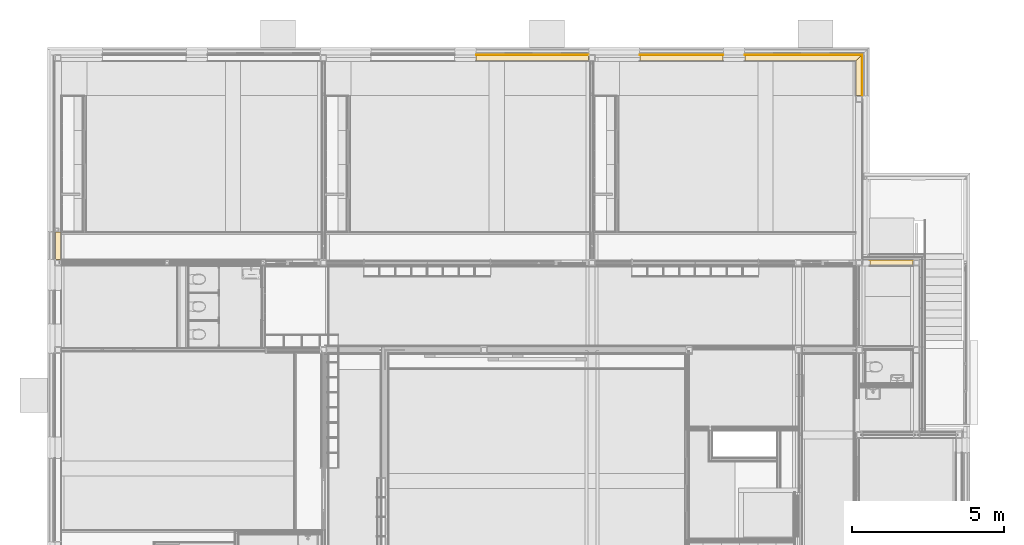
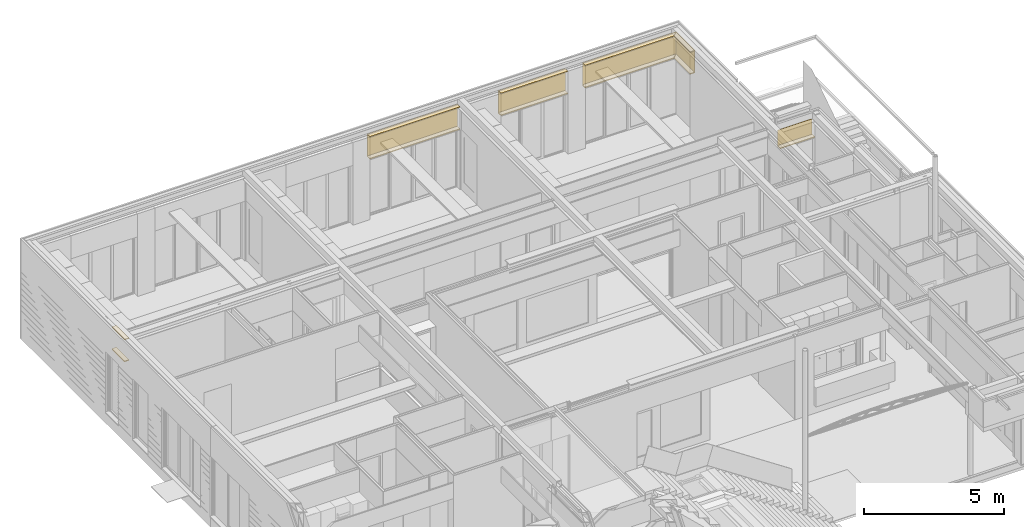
# One storey, part 120 of 165: 16 coverings, 6 elements without a shape of their own.
"""IFC2X3 building model written with IfcOpenShell, lengths in millimetres."""

from ifc_helpers import new_model, entity, si_unit, converted_unit, derived_unit, money_unit, direction, frame, origin_with_axes, place, context, subcontext, project, spatial, faceted_brep, material, type_object, element, aggregate, save


model = new_model("IFC2X3")

# Units and contexts
model_context = context("Model", 3, precision=0.01, world=origin_with_axes(), true_north=direction((0.0, 1.0)))
body_context = subcontext(model_context, "Body", "Model", "MODEL_VIEW")
ifc_project = project(units=[si_unit("LENGTHUNIT", "METRE", prefix="MILLI"), si_unit("AREAUNIT", "SQUARE_METRE"), si_unit("VOLUMEUNIT", "CUBIC_METRE"), converted_unit("PLANEANGLEUNIT", "DEGREE", entity("IfcPlaneAngleMeasure", 0.0174532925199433), si_unit("PLANEANGLEUNIT", "RADIAN"), dimensions=[0, 0, 0, 0, 0, 0, 0]), money_unit("EUR"), converted_unit("TIMEUNIT", "Year", entity("IfcTimeMeasure", 31556926.0), si_unit("TIMEUNIT", "SECOND"), dimensions=[0, 0, 1, 0, 0, 0, 0]), si_unit("MASSUNIT", "GRAM", prefix="KILO"), si_unit("THERMODYNAMICTEMPERATUREUNIT", "DEGREE_CELSIUS"), si_unit("LUMINOUSINTENSITYUNIT", "LUMEN"), si_unit("ENERGYUNIT", "JOULE", prefix="MEGA"), derived_unit("THERMALCONDUCTANCEUNIT", [(si_unit("POWERUNIT", "WATT"), 1), (si_unit("LENGTHUNIT", "METRE"), -1), (si_unit("THERMODYNAMICTEMPERATUREUNIT", "KELVIN"), -1)]), derived_unit("SPECIFICHEATCAPACITYUNIT", [(si_unit("ENERGYUNIT", "JOULE"), 1), (si_unit("MASSUNIT", "GRAM", prefix="KILO"), -1), (si_unit("THERMODYNAMICTEMPERATUREUNIT", "KELVIN"), -1)]), derived_unit("MASSDENSITYUNIT", [(si_unit("MASSUNIT", "GRAM", prefix="KILO"), 1), (si_unit("VOLUMEUNIT", "CUBIC_METRE"), -1)])], contexts=[model_context])

# Site, building, storey
site_placement = place(None, origin_with_axes())
site = spatial("IfcSite", under=ifc_project, at=site_placement, Name="Site", CompositionType="ELEMENT")
building_placement = place(site_placement, origin_with_axes())
building = spatial("IfcBuilding", under=site, at=building_placement, Name="Naam gebouw", CompositionType="ELEMENT")
storey_placement = place(building_placement, origin_with_axes())
storey = spatial("IfcBuildingStorey", under=building, at=storey_placement, Name="Begane grond", CompositionType="ELEMENT", Elevation=0.0)

# Beam, coverings
beam_type = type_object("IfcBeamType", Name="31 HSB boven kozijnen 214 x 1000", PredefinedType="BEAM")
beam_1_placement = place(storey_placement, frame((13884.99942456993, 28961.0, 2600.000000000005), z_axis=(0.0, 0.0, 1.0), x_axis=(0.0, -1.0, 0.0)))
beam_1 = element("IfcBeam", 1, at=beam_1_placement, inside=storey, type_object=beam_type, Name="28_Balk-x", ObjectType="BEAM")
ifc_material_1 = material(Name="Hout - Vloer")
covering_1_placement = place(beam_1_placement, origin_with_axes())
covering_1 = element("IfcCovering", 2, at=covering_1_placement, material=ifc_material_1, Name="Hout - Vloer", PredefinedType="NOTDEFINED", context=body_context, shape_type="Brep", body=[
    faceted_brep([(-196.000001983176, 3700.000000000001, 999.9999999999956), (-196.000001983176, 3700.000000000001, 961.9999910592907), (-196.000001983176, 0.0, 961.9999910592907), (-196.000001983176, 0.0, 999.9999999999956), (-11.99999006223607, 3700.000000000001, 999.9999999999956), (-11.99999006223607, 3700.000000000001, 962.0000059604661), (-11.99999006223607, 0.0, 962.0000059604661), (-11.99999006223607, 0.0, 999.9999999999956)], [[[0, 1, 2, 3]], [[0, 4, 5, 1]], [[1, 5, 6, 2]], [[3, 2, 6, 7]], [[4, 0, 3, 7]], [[5, 4, 7, 6]]]),
])
ifc_material_2 = material(Name="Hout - Multiplex")
covering_2_placement = place(beam_1_placement, origin_with_axes())
covering_2 = element("IfcCovering", 3, at=covering_2_placement, material=ifc_material_2, Name="Hout - Multiplex", PredefinedType="NOTDEFINED", context=body_context, shape_type="Brep", body=[
    faceted_brep([(-214.0000025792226, 3700.000000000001, 999.9999999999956), (-214.0000025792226, 3700.000000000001, 11.99999999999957), (-214.0000025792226, 0.0, 11.99999999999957), (-214.0000025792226, 0.0, 999.9999999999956), (-196.000001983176, 3700.000000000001, 999.9999999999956), (-196.000001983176, 3700.000000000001, 11.99999999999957), (-196.000001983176, 0.0, 11.99999999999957), (-196.000001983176, 0.0, 999.9999999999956)], [[[0, 1, 2, 3]], [[0, 4, 5, 1]], [[1, 5, 6, 2]], [[3, 2, 6, 7]], [[4, 0, 3, 7]], [[5, 4, 7, 6]]]),
])

beam_2_placement = place(storey_placement, frame((19274.99942456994, 28961.0, 2600.000000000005), z_axis=(0.0, 0.0, 1.0), x_axis=(0.0, -1.0, 0.0)))
beam_2 = element("IfcBeam", 4, at=beam_2_placement, inside=storey, type_object=beam_type, Name="28_Balk-x", ObjectType="BEAM")
covering_3_placement = place(beam_2_placement, origin_with_axes())
covering_3 = element("IfcCovering", 5, at=covering_3_placement, material=ifc_material_1, Name="Hout - Vloer", PredefinedType="NOTDEFINED", context=body_context, shape_type="Brep", body=[
    faceted_brep([(-196.000001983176, 2749.999999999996, 999.9999999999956), (-196.000001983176, 2749.999999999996, 961.9999910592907), (-196.000001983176, 0.0, 961.9999910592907), (-196.000001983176, 0.0, 999.9999999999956), (-11.99999006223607, 2749.999999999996, 999.9999999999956), (-11.99999006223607, 2749.999999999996, 962.0000059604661), (-11.99999006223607, 0.0, 962.0000059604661), (-11.99999006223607, 0.0, 999.9999999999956)], [[[0, 1, 2, 3]], [[0, 4, 5, 1]], [[1, 5, 6, 2]], [[3, 2, 6, 7]], [[4, 0, 3, 7]], [[5, 4, 7, 6]]]),
])
covering_4_placement = place(beam_2_placement, origin_with_axes())
covering_4 = element("IfcCovering", 6, at=covering_4_placement, material=ifc_material_1, Name="Hout - Vloer", PredefinedType="NOTDEFINED", context=body_context, shape_type="Brep", body=[
    faceted_brep([(-196.0000083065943, 2749.999999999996, 49.99999999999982), (-196.0000083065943, 2749.999999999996, 12.00000596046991), (-196.0000083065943, 0.0, 12.00000596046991), (-196.0000083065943, 0.0, 49.99999999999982), (-11.9999963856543, 2749.999999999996, 49.99999999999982), (-11.9999963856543, 2749.999999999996, 12.00000596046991), (-11.9999963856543, 0.0, 12.00000596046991), (-11.9999963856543, 0.0, 49.99999999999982)], [[[0, 1, 2, 3]], [[0, 4, 5, 1]], [[1, 5, 6, 2]], [[3, 2, 6, 7]], [[4, 0, 3, 7]], [[5, 4, 7, 6]]]),
])
covering_5_placement = place(beam_2_placement, origin_with_axes())
covering_5 = element("IfcCovering", 7, at=covering_5_placement, material=ifc_material_2, Name="Hout - Multiplex", PredefinedType="NOTDEFINED", context=body_context, shape_type="Brep", body=[
    faceted_brep([(-214.0000025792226, 2749.999999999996, 999.9999999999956), (-214.0000025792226, 2749.999999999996, 11.99999999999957), (-214.0000025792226, 0.0, 11.99999999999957), (-214.0000025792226, 0.0, 999.9999999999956), (-196.000001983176, 2749.999999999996, 999.9999999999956), (-196.000001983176, 2749.999999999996, 11.99999999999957), (-196.000001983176, 0.0, 11.99999999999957), (-196.000001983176, 0.0, 999.9999999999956)], [[[0, 1, 2, 3]], [[0, 4, 5, 1]], [[1, 5, 6, 2]], [[3, 2, 6, 7]], [[4, 0, 3, 7]], [[5, 4, 7, 6]]]),
])
aggregate(beam_2, [covering_3, covering_4, covering_5])

beam_3_placement = place(storey_placement, frame((22734.99942456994, 28961.0, 2600.000000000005), z_axis=(0.0, 0.0, 1.0), x_axis=(0.0, -1.0, 0.0)))
beam_3 = element("IfcBeam", 8, at=beam_3_placement, inside=storey, type_object=beam_type, Name="28_Balk-x", ObjectType="BEAM")
covering_6_placement = place(beam_3_placement, origin_with_axes())
covering_6 = element("IfcCovering", 9, at=covering_6_placement, material=ifc_material_1, Name="Hout - Vloer", PredefinedType="NOTDEFINED", context=body_context, shape_type="Brep", body=[
    faceted_brep([(-196.0000083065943, 3847.000583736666, 49.99999999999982), (-196.0000083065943, 3847.000583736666, 12.00000596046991), (-196.0000083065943, 0.0, 12.00000596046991), (-196.0000083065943, 0.0, 49.99999999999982), (-11.9999963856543, 3663.000571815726, 49.99999999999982), (-11.9999963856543, 3663.000571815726, 12.00000596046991), (-11.9999963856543, 0.0, 12.00000596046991), (-11.9999963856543, 0.0, 49.99999999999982)], [[[0, 1, 2, 3]], [[0, 4, 5, 1]], [[1, 5, 6, 2]], [[3, 2, 6, 7]], [[4, 0, 3, 7]], [[5, 4, 7, 6]]]),
])
covering_7_placement = place(beam_3_placement, origin_with_axes())
covering_7 = element("IfcCovering", 10, at=covering_7_placement, material=ifc_material_2, Name="Hout - Multiplex", PredefinedType="NOTDEFINED", context=body_context, shape_type="Brep", body=[
    faceted_brep([(-214.0000025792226, 3865.000578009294, 999.9999999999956), (-214.0000025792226, 3865.000578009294, 11.99999999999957), (-214.0000025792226, 0.0, 11.99999999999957), (-214.0000025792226, 0.0, 999.9999999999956), (-196.000001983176, 3847.000577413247, 999.9999999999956), (-196.000001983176, 3847.000577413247, 11.99999999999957), (-196.000001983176, 0.0, 11.99999999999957), (-196.000001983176, 0.0, 999.9999999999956)], [[[0, 1, 2, 3]], [[0, 4, 5, 1]], [[1, 5, 6, 2]], [[3, 2, 6, 7]], [[4, 0, 3, 7]], [[5, 4, 7, 6]]]),
])
covering_8_placement = place(beam_3_placement, origin_with_axes())
covering_8 = element("IfcCovering", 11, at=covering_8_placement, material=ifc_material_1, Name="Hout - Vloer", PredefinedType="NOTDEFINED", context=body_context, shape_type="Brep", body=[
    faceted_brep([(-196.000001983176, 3847.000577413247, 999.9999999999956), (-196.000001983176, 3847.000577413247, 961.9999910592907), (-196.000001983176, 0.0, 961.9999910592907), (-196.000001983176, 0.0, 999.9999999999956), (-11.99999006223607, 3663.000565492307, 999.9999999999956), (-11.99999006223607, 3663.000565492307, 962.0000059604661), (-11.99999006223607, 0.0, 962.0000059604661), (-11.99999006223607, 0.0, 999.9999999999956)], [[[0, 1, 2, 3]], [[0, 4, 5, 1]], [[1, 5, 6, 2]], [[3, 2, 6, 7]], [[4, 0, 3, 7]], [[5, 4, 7, 6]]]),
])
aggregate(beam_3, [covering_6, covering_7, covering_8])

beam_4_placement = place(storey_placement, frame((26386.00000000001, 28961.0, 2600.000000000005), z_axis=(0.0, 0.0, 1.0), x_axis=(-1.0, 0.0, 0.0)))
beam_4 = element("IfcBeam", 12, at=beam_4_placement, inside=storey, type_object=beam_type, Name="28_Balk-x", ObjectType="BEAM")
covering_9_placement = place(beam_4_placement, origin_with_axes())
covering_9 = element("IfcCovering", 13, at=covering_9_placement, material=ifc_material_1, Name="Hout - Vloer", PredefinedType="NOTDEFINED", context=body_context, shape_type="Brep", body=[
    faceted_brep([(-196.000001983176, 1130.000000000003, 999.9999999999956), (-196.000001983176, 1130.000000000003, 961.9999910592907), (-196.000001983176, -196.0000019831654, 961.9999910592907), (-196.000001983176, -196.0000019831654, 999.9999999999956), (-11.99999006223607, 1130.000000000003, 999.9999999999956), (-11.99999006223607, 1130.000000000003, 962.0000059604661), (-11.99999006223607, -11.99999006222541, 962.0000059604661), (-11.99999006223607, -11.99999006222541, 999.9999999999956)], [[[0, 1, 2, 3]], [[0, 4, 5, 1]], [[1, 5, 6, 2]], [[3, 2, 6, 7]], [[4, 0, 3, 7]], [[5, 4, 7, 6]]]),
])
covering_10_placement = place(beam_4_placement, origin_with_axes())
covering_10 = element("IfcCovering", 14, at=covering_10_placement, material=ifc_material_2, Name="Hout - Multiplex", PredefinedType="NOTDEFINED", context=body_context, shape_type="Brep", body=[
    faceted_brep([(-214.0000025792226, 1130.000000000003, 999.9999999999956), (-214.0000025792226, 1130.000000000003, 11.99999999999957), (-214.0000025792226, -214.0000025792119, 11.99999999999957), (-214.0000025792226, -214.0000025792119, 999.9999999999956), (-196.000001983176, 1130.000000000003, 999.9999999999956), (-196.000001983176, 1130.000000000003, 11.99999999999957), (-196.000001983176, -196.0000019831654, 11.99999999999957), (-196.000001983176, -196.0000019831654, 999.9999999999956)], [[[0, 1, 2, 3]], [[0, 4, 5, 1]], [[1, 5, 6, 2]], [[3, 2, 6, 7]], [[4, 0, 3, 7]], [[5, 4, 7, 6]]]),
])

# Beam, covering
beam_5_placement = place(storey_placement, frame((26859.99999416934, 22210.97623752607, 2600.000000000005), z_axis=(0.0, 0.0, 1.0), x_axis=(-1.495042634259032e-08, -0.9999999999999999, 0.0)))
beam_5 = element("IfcBeam", 15, at=beam_5_placement, inside=storey, type_object=beam_type, Name="28_Balk-x", ObjectType="BEAM")
covering_11_placement = place(beam_5_placement, origin_with_axes())
covering_11 = element("IfcCovering", 16, at=covering_11_placement, material=ifc_material_1, Name="Hout - Vloer", PredefinedType="NOTDEFINED", context=body_context, shape_type="Brep", body=[
    faceted_brep([(-196.0000083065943, 1426.000068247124, 49.99999999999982), (-196.0000083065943, 1426.000068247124, 12.00000596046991), (-196.0000083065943, 0.0, 12.00000596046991), (-196.0000083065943, 0.0, 49.99999999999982), (-11.9999963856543, 1426.000068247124, 49.99999999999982), (-11.9999963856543, 1426.000068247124, 12.00000596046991), (-11.9999963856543, 0.0, 12.00000596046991), (-11.9999963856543, 0.0, 49.99999999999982)], [[[0, 1, 2, 3]], [[0, 4, 5, 1]], [[1, 5, 6, 2]], [[3, 2, 6, 7]], [[4, 0, 3, 7]], [[5, 4, 7, 6]]]),
])

# Covering
covering_12_placement = place(beam_4_placement, origin_with_axes())
covering_12 = element("IfcCovering", 17, at=covering_12_placement, material=ifc_material_1, Name="Hout - Vloer", PredefinedType="NOTDEFINED", context=body_context, shape_type="Brep", body=[
    faceted_brep([(-196.0000083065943, 1130.000000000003, 49.99999999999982), (-196.0000083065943, 1130.000000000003, 12.00000596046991), (-196.0000083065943, -196.0000083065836, 12.00000596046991), (-196.0000083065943, -196.0000083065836, 49.99999999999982), (-11.9999963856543, 1130.000000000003, 49.99999999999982), (-11.9999963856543, 1130.000000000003, 12.00000596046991), (-11.9999963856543, -11.99999638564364, 12.00000596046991), (-11.9999963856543, -11.99999638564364, 49.99999999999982)], [[[0, 1, 2, 3]], [[0, 4, 5, 1]], [[1, 5, 6, 2]], [[3, 2, 6, 7]], [[4, 0, 3, 7]], [[5, 4, 7, 6]]]),
])

aggregate(beam_4, [covering_9, covering_10, covering_12])

covering_13_placement = place(beam_5_placement, origin_with_axes())
covering_13 = element("IfcCovering", 18, at=covering_13_placement, material=ifc_material_2, Name="Hout - Multiplex", PredefinedType="NOTDEFINED", context=body_context, shape_type="Brep", body=[
    faceted_brep([(-214.0000006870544, 0.0, 709.9999999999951), (-213.999998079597, 1426.000068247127, 709.9999999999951), (-214.0000025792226, 1426.000068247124, 11.99999999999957), (-214.0000025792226, 0.0, 11.99999999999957), (-196.000001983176, 1426.000068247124, 709.9999999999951), (-196.000001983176, 0.0, 709.9999999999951), (-196.000001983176, 1426.000068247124, 11.99999999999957), (-196.000001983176, 0.0, 11.99999999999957)], [[[0, 1, 2, 3]], [[4, 1, 0, 5]], [[1, 4, 6, 2]], [[3, 2, 6, 7]], [[5, 0, 3, 7]], [[4, 5, 7, 6]]]),
])

aggregate(beam_5, [covering_11, covering_13])

# Beam, coverings
beam_6_placement = place(storey_placement, frame((214.0000000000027, 22439.99984707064, 2600.000000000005), z_axis=(0.0, 0.0, 1.0), x_axis=(1.0, 0.0, 0.0)))
beam_6 = element("IfcBeam", 19, at=beam_6_placement, inside=storey, type_object=beam_type, Name="28_Balk-x", ObjectType="BEAM")
covering_14_placement = place(beam_6_placement, origin_with_axes())
covering_14 = element("IfcCovering", 20, at=covering_14_placement, material=ifc_material_1, Name="Hout - Vloer", PredefinedType="NOTDEFINED", context=body_context, shape_type="Brep", body=[
    faceted_brep([(-196.0000019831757, 899.9999999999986, 999.9999999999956), (-196.0000019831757, 899.9999999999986, 961.9999910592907), (-196.0000019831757, 0.0, 961.9999910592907), (-196.0000019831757, 0.0, 999.9999999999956), (-11.99999006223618, 899.9999999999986, 999.9999999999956), (-11.99999006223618, 899.9999999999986, 962.0000059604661), (-11.99999006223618, 0.0, 962.0000059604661), (-11.99999006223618, 0.0, 999.9999999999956)], [[[0, 1, 2, 3]], [[0, 4, 5, 1]], [[1, 5, 6, 2]], [[3, 2, 6, 7]], [[4, 0, 3, 7]], [[5, 4, 7, 6]]]),
])
covering_15_placement = place(beam_6_placement, origin_with_axes())
covering_15 = element("IfcCovering", 21, at=covering_15_placement, material=ifc_material_1, Name="Hout - Vloer", PredefinedType="NOTDEFINED", context=body_context, shape_type="Brep", body=[
    faceted_brep([(-196.0000083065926, 899.9999999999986, 49.99999999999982), (-196.0000083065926, 899.9999999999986, 12.00000596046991), (-196.0000083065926, 0.0, 12.00000596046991), (-196.0000083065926, 0.0, 49.99999999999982), (-11.99999638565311, 899.9999999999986, 49.99999999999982), (-11.99999638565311, 899.9999999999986, 12.00000596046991), (-11.99999638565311, 0.0, 12.00000596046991), (-11.99999638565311, 0.0, 49.99999999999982)], [[[0, 1, 2, 3]], [[0, 4, 5, 1]], [[1, 5, 6, 2]], [[3, 2, 6, 7]], [[4, 0, 3, 7]], [[5, 4, 7, 6]]]),
])
aggregate(beam_6, [covering_14, covering_15])

# Covering
covering_16_placement = place(beam_1_placement, origin_with_axes())
covering_16 = element("IfcCovering", 22, at=covering_16_placement, material=ifc_material_1, Name="Hout - Vloer", PredefinedType="NOTDEFINED", context=body_context, shape_type="Brep", body=[
    faceted_brep([(-196.0000083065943, 3700.000000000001, 49.99999999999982), (-196.0000083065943, 3700.000000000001, 12.00000596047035), (-196.0000083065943, 0.0, 12.00000596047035), (-196.0000083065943, 0.0, 49.99999999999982), (-11.9999963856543, 3700.000000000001, 49.99999999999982), (-11.9999963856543, 3700.000000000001, 12.00000596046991), (-11.9999963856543, 0.0, 12.00000596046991), (-11.9999963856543, 0.0, 49.99999999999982)], [[[0, 1, 2, 3]], [[0, 4, 5, 1]], [[1, 5, 6, 2]], [[3, 2, 6, 7]], [[4, 0, 3, 7]], [[5, 4, 7, 6]]]),
])

aggregate(beam_1, [covering_1, covering_2, covering_16])

save(model, "model.ifc")
